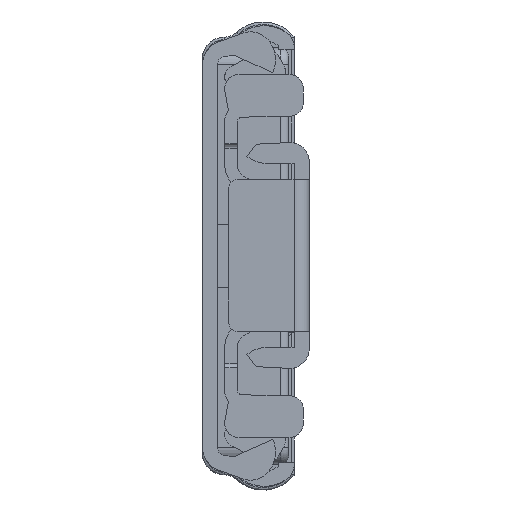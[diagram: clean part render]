
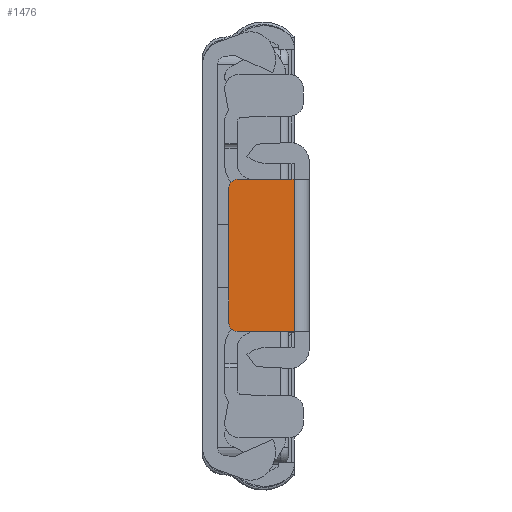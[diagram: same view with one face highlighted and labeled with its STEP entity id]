
A CAD part, front view. The second image highlights one B-rep face of the part: STEP entity #1476.
In plain terms, the highlighted planar face has unit normal (0, -1, 0).
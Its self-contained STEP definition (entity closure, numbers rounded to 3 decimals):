
#1476 = ADVANCED_FACE( '', ( #3330 ), #3331, .T. );
#3330 = FACE_OUTER_BOUND( '', #5597, .T. );
#3331 = PLANE( '', #5598 );
#5597 = EDGE_LOOP( '', ( #9919, #9920, #9921, #9922, #9923, #9924 ) );
#5598 = AXIS2_PLACEMENT_3D( '', #9925, #9926, #9927 );
#9919 = ORIENTED_EDGE( '', *, *, #15301, .T. );
#9920 = ORIENTED_EDGE( '', *, *, #15302, .T. );
#9921 = ORIENTED_EDGE( '', *, *, #14759, .T. );
#9922 = ORIENTED_EDGE( '', *, *, #15303, .T. );
#9923 = ORIENTED_EDGE( '', *, *, #15304, .T. );
#9924 = ORIENTED_EDGE( '', *, *, #15305, .T. );
#9925 = CARTESIAN_POINT( '', ( -9., -575.302, -2.366 ) );
#9926 = DIRECTION( '', ( 0., -1., 0. ) );
#9927 = DIRECTION( '', ( 0., 0., -1. ) );
#14759 = EDGE_CURVE( '', #18247, #18248, #18249, .T. );
#15301 = EDGE_CURVE( '', #19043, #19044, #19045, .T. );
#15302 = EDGE_CURVE( '', #19044, #18247, #19046, .T. );
#15303 = EDGE_CURVE( '', #18248, #19047, #19048, .T. );
#15304 = EDGE_CURVE( '', #19047, #19049, #19050, .T. );
#15305 = EDGE_CURVE( '', #19049, #19043, #19051, .T. );
#18247 = VERTEX_POINT( '', #22931 );
#18248 = VERTEX_POINT( '', #22932 );
#18249 = LINE( '', #22933, #22934 );
#19043 = VERTEX_POINT( '', #24053 );
#19044 = VERTEX_POINT( '', #24054 );
#19045 = LINE( '', #24055, #24056 );
#19046 = CIRCLE( '', #24057, 1. );
#19047 = VERTEX_POINT( '', #24058 );
#19048 = LINE( '', #24059, #24060 );
#19049 = VERTEX_POINT( '', #24061 );
#19050 = LINE( '', #24062, #24063 );
#19051 = CIRCLE( '', #24064, 1. );
#22931 = CARTESIAN_POINT( '', ( -9., -575.302, 4.8 ) );
#22932 = CARTESIAN_POINT( '', ( -9., -575.302, -1.898 ) );
#22933 = CARTESIAN_POINT( '', ( -9., -575.302, -2.366 ) );
#22934 = VECTOR( '', #27258, 1000. );
#24053 = CARTESIAN_POINT( '', ( 8., -575.302, 5.8 ) );
#24054 = CARTESIAN_POINT( '', ( -8., -575.302, 5.8 ) );
#24055 = CARTESIAN_POINT( '', ( 9., -575.302, 5.8 ) );
#24056 = VECTOR( '', #27964, 1000. );
#24057 = AXIS2_PLACEMENT_3D( '', #27965, #27966, #27967 );
#24058 = CARTESIAN_POINT( '', ( 9., -575.302, -1.898 ) );
#24059 = CARTESIAN_POINT( '', ( -9., -575.302, -1.898 ) );
#24060 = VECTOR( '', #27968, 1000. );
#24061 = CARTESIAN_POINT( '', ( 9., -575.302, 4.8 ) );
#24062 = CARTESIAN_POINT( '', ( 9., -575.302, -2.366 ) );
#24063 = VECTOR( '', #27969, 1000. );
#24064 = AXIS2_PLACEMENT_3D( '', #27970, #27971, #27972 );
#27258 = DIRECTION( '', ( 0., 0., -1. ) );
#27964 = DIRECTION( '', ( -1., 0., 0. ) );
#27965 = CARTESIAN_POINT( '', ( -8., -575.302, 4.8 ) );
#27966 = DIRECTION( '', ( 0., -1., 0. ) );
#27967 = DIRECTION( '', ( 0., 0., -1. ) );
#27968 = DIRECTION( '', ( 1., 0., 0. ) );
#27969 = DIRECTION( '', ( 0., 0., 1. ) );
#27970 = CARTESIAN_POINT( '', ( 8., -575.302, 4.8 ) );
#27971 = DIRECTION( '', ( 0., -1., 0. ) );
#27972 = DIRECTION( '', ( 0., 0., -1. ) );
